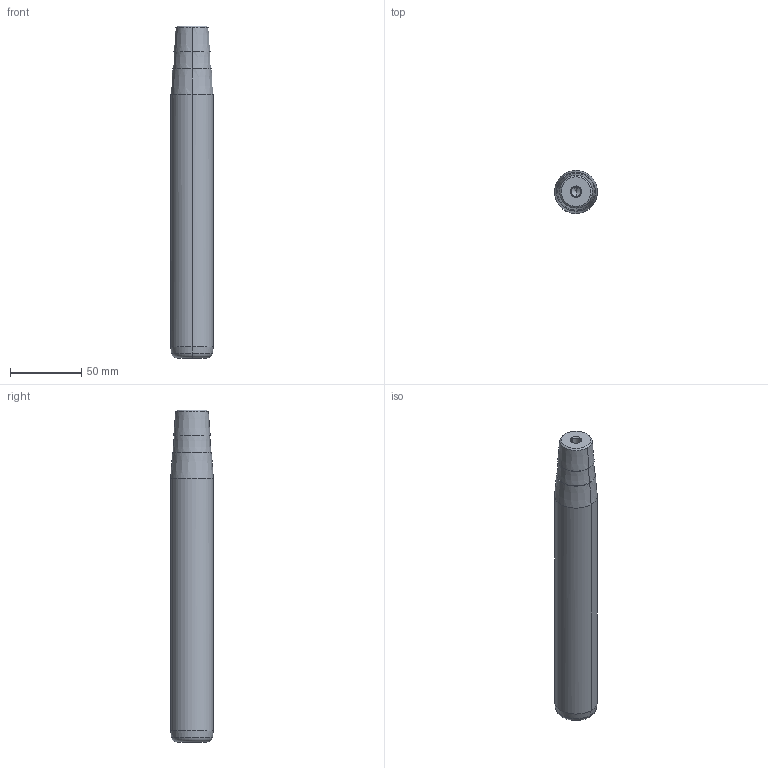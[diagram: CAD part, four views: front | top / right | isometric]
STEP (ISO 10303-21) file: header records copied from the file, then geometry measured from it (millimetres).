
FILE_DESCRIPTION(('CATIA V5 STEP Exchange'),'2;1');
FILE_NAME('C:\Users\Utente\Desktop\IO LAVORO\3D X SITO CF\X SITO\722\722-30x200x233.stp','2021-01-08T16:17:46+00:00',('none'),('none'),'CATIA Version 5 Release 20 GA (IN-10)','CATIA V5 STEP AP203','none');
FILE_SCHEMA(('CONFIG_CONTROL_DESIGN'));
Length unit declared in the file: millimetre
Products named in the file (1): 722-30x200x233
Bounding box: 30 x 30 x 233 mm (x, y, z)
Volume: 154399.3 mm3; surface area: 23375.3 mm2
Topology: 1 solids, 1 shells, 32 faces, 98 edges, 66 vertices
Faces by surface type: cone 22, cylinder 6, plane 2, torus 2
Entity records: 1166 total; most frequent: CARTESIAN_POINT 279, ORIENTED_EDGE 188, DIRECTION 148, EDGE_CURVE 94, AXIS2_PLACEMENT_3D 89, VERTEX_POINT 66, CIRCLE 56, EDGE_LOOP 34
